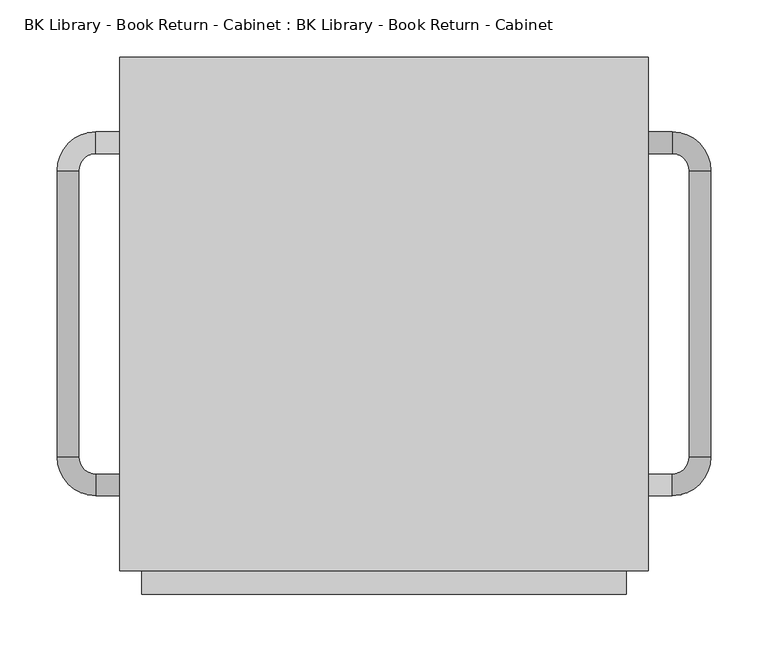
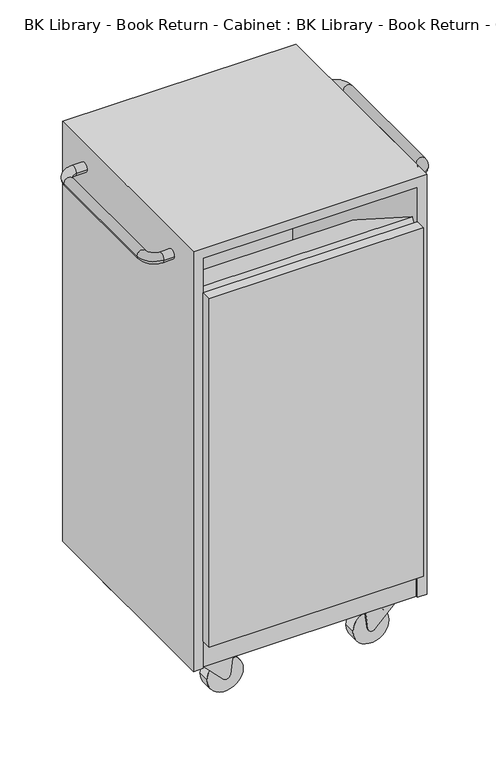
"""IFC4 building model written with IfcOpenShell, lengths in millimetres: furniture geometry, BK Library - Book Return - Cabinet : BK Library - Book Return - Cabinet."""

import ifcopenshell
import ifcopenshell.guid

model = None  # the IFC model being written
_history = None  # IfcOwnerHistory: only IFC2X3 demands one
_inside = {}  # id of a spatial element -> (the spatial element, [elements in it])
_under = {}  # id of a project, library or spatial element -> (it, [spatial elements below it])
_declared = {}  # id of a project -> (the project, [libraries it declares])
_typed = {}  # id of a type object -> (the type object, [elements of that type])
_made_of = {}  # id of a material, layer set ... -> (it, [elements and type objects made of it])


def new_model(schema):
    """Start an empty IFC model of exactly this schema.

    Asked for "IFC4X3", IfcOpenShell would pick the latest addendum, in which some entities
    have other attributes; the version numbers below select the first issue.
    IFC2X3 requires an IfcOwnerHistory on every rooted entity: one is made here for all.
    """
    global model, _history
    if schema == "IFC4X3":
        model = ifcopenshell.file(schema_version=(4, 3, 0, 0))
    else:
        model = ifcopenshell.file(schema=schema)
    _inside.clear()
    _under.clear()
    _declared.clear()
    _typed.clear()
    _made_of.clear()
    _history = None
    if model.schema == "IFC2X3":
        org = make("IfcOrganization", Name="unknown")
        user = make(
            "IfcPersonAndOrganization",
            ThePerson=make("IfcPerson", FamilyName="unknown"),
            TheOrganization=org,
        )
        app = make(
            "IfcApplication",
            ApplicationDeveloper=org,
            Version="unknown",
            ApplicationFullName="unknown",
            ApplicationIdentifier="unknown",
        )
        _history = make(
            "IfcOwnerHistory",
            OwningUser=user,
            OwningApplication=app,
            ChangeAction="ADDED",
            CreationDate=0,
        )
    return model


def make(cls, **values):
    """One entity of the class cls with the attributes given. An attribute that is None is left unset."""
    return model.create_entity(
        cls, **{name: value for name, value in values.items() if value is not None}
    )


def rooted(cls, **values):
    """An entity with a GlobalId (a new one), such as an element, a storey or a relation."""
    return make(cls, GlobalId=ifcopenshell.guid.new(), OwnerHistory=_history, **values)


def si_unit(unit_type, name, prefix=None):
    """IfcSIUnit, for example si_unit("LENGTHUNIT", "METRE", prefix="MILLI")."""
    return make("IfcSIUnit", UnitType=unit_type, Prefix=prefix, Name=name)


def assignment(units):
    """IfcUnitAssignment: the units of a project."""
    return None if units is None else make("IfcUnitAssignment", Units=units)


def point(xyz):
    """IfcCartesianPoint."""
    return None if xyz is None else make("IfcCartesianPoint", Coordinates=xyz)


def direction(xyz):
    """IfcDirection."""
    return None if xyz is None else make("IfcDirection", DirectionRatios=xyz)


def frame(location, z_axis=None, x_axis=None):
    """IfcAxis2Placement3D, a coordinate frame: its origin and axes. An axis left out is left unset."""
    return make(
        "IfcAxis2Placement3D",
        Location=point(location),
        Axis=direction(z_axis),
        RefDirection=direction(x_axis),
    )


def frame_2d(location, x_axis=None):
    """IfcAxis2Placement2D, a coordinate frame in the plane: its origin and x axis."""
    return make(
        "IfcAxis2Placement2D", Location=point(location), RefDirection=direction(x_axis)
    )


def origin():
    """The frame at (0, 0, 0) with its axes left unset."""
    return frame((0.0, 0.0, 0.0))


def place(relative_to, where):
    """IfcLocalPlacement: puts the frame where relative to a parent placement (None: the world)."""
    return make(
        "IfcLocalPlacement", PlacementRelTo=relative_to, RelativePlacement=where
    )


def context(
    kind, dimensions, precision=None, world=None, true_north=None, identifier=None
):
    """IfcGeometricRepresentationContext, for example the 3D "Model" context."""
    return make(
        "IfcGeometricRepresentationContext",
        ContextIdentifier=identifier,
        ContextType=kind,
        CoordinateSpaceDimension=dimensions,
        Precision=precision,
        WorldCoordinateSystem=world,
        TrueNorth=true_north,
    )


def project(units=None, contexts=None):
    """IfcProject with its units and contexts."""
    return rooted(
        "IfcProject",
        Name="project",
        RepresentationContexts=contexts,
        UnitsInContext=assignment(units),
    )


def spatial(cls, under=None, at=None, **own):
    """A site, building, storey or space (cls), placed at a placement, below another one or the project."""
    s = rooted(cls, ObjectPlacement=at, **own)
    if under is not None:
        _under.setdefault(under.id(), (under, []))[1].append(s)
    return s


def polyline(points):
    """IfcPolyline through the points."""
    return make("IfcPolyline", Points=[point(p) for p in points])


def circle_curve(where, radius):
    """IfcCircle in the frame where."""
    return make("IfcCircle", Position=where, Radius=radius)


def ellipse_curve(where, semi_axis1, semi_axis2):
    """IfcEllipse in the frame where."""
    return make(
        "IfcEllipse", Position=where, SemiAxis1=semi_axis1, SemiAxis2=semi_axis2
    )


def trimmed(basis, trim1, trim2, sense, master):
    """IfcTrimmedCurve: the piece of a basis curve between two trims."""
    return make(
        "IfcTrimmedCurve",
        BasisCurve=basis,
        Trim1=trim1,
        Trim2=trim2,
        SenseAgreement=sense,
        MasterRepresentation=master,
    )


def segment(curve, same_sense, transition):
    """IfcCompositeCurveSegment."""
    return make(
        "IfcCompositeCurveSegment",
        Transition=transition,
        SameSense=same_sense,
        ParentCurve=curve,
    )


def composite_curve(segments, self_intersect=None):
    """IfcCompositeCurve: segments joined end to end."""
    return make("IfcCompositeCurve", Segments=segments, SelfIntersect=self_intersect)


def outline(outer, holes=None, kind="AREA"):
    """IfcArbitraryClosedProfileDef: a profile drawn as a closed curve; with holes, ...WithVoids."""
    if holes is None:
        return make("IfcArbitraryClosedProfileDef", ProfileType=kind, OuterCurve=outer)
    return make(
        "IfcArbitraryProfileDefWithVoids",
        ProfileType=kind,
        OuterCurve=outer,
        InnerCurves=holes,
    )


def extrude(swept, where, along, depth):
    """IfcExtrudedAreaSolid: the profile swept, set in the frame where, extruded along a direction by depth."""
    return make(
        "IfcExtrudedAreaSolid",
        SweptArea=swept,
        Position=where,
        ExtrudedDirection=direction(along),
        Depth=depth,
    )


def faces_of(points, faces, orient=None, outer=None):
    """IfcFace entities. A face is a list of loops; a loop is a list of indices into points, from 0.

    orient and outer hold one flag for each loop. By default every Orientation is true, the
    first loop of a face is its IfcFaceOuterBound and the others are IfcFaceBound.
    """
    made = []
    for i, loops in enumerate(faces):
        bounds = []
        for j, loop in enumerate(loops):
            is_outer = j == 0 if outer is None else outer[i][j]
            bounds.append(
                make(
                    "IfcFaceOuterBound" if is_outer else "IfcFaceBound",
                    Bound=make("IfcPolyLoop", Polygon=[points[k] for k in loop]),
                    Orientation=True if orient is None else orient[i][j],
                )
            )
        made.append(make("IfcFace", Bounds=bounds))
    return made


def faceted_brep(points, faces, orient=None, outer=None, voids=None):
    """IfcFacetedBrep: a solid bounded by flat faces; with voids (closed shells), ...WithVoids."""
    shared = [point(p) for p in points]
    hull = make("IfcClosedShell", CfsFaces=faces_of(shared, faces, orient, outer))
    if voids is None:
        return make("IfcFacetedBrep", Outer=hull)
    return make(
        "IfcFacetedBrepWithVoids",
        Outer=hull,
        Voids=[
            make(cls, CfsFaces=faces_of(shared, fs, o, b)) for cls, fs, o, b in voids
        ],
    )


def shape(context_of_items, identifier, shape_type, items):
    """IfcShapeRepresentation: the items that make up one representation, for example the "Body"."""
    return make(
        "IfcShapeRepresentation",
        ContextOfItems=context_of_items,
        RepresentationIdentifier=identifier,
        RepresentationType=shape_type,
        Items=items,
    )


def source(mapping_origin, context_of_items, identifier, shape_type, items):
    """IfcRepresentationMap: a shape defined once, which mapped items show again and again."""
    return make(
        "IfcRepresentationMap",
        MappingOrigin=mapping_origin,
        MappedRepresentation=shape(context_of_items, identifier, shape_type, items),
    )


def transform(
    local_origin,
    x_axis=None,
    y_axis=None,
    z_axis=None,
    scale=None,
    scale2=None,
    scale3=None,
    uniform=True,
):
    """IfcCartesianTransformationOperator3D, or its non-uniform kind. x_axis, y_axis, z_axis: its Axis1, 2, 3."""
    if uniform:
        return make(
            "IfcCartesianTransformationOperator3D",
            Axis1=direction(x_axis),
            Axis2=direction(y_axis),
            LocalOrigin=point(local_origin),
            Scale=scale,
            Axis3=direction(z_axis),
        )
    return make(
        "IfcCartesianTransformationOperator3DnonUniform",
        Axis1=direction(x_axis),
        Axis2=direction(y_axis),
        LocalOrigin=point(local_origin),
        Scale=scale,
        Axis3=direction(z_axis),
        Scale2=scale2,
        Scale3=scale3,
    )


def mapped(mapping_source, mapping_target):
    """IfcMappedItem: shows the shape of a source again, moved by a transform."""
    return make(
        "IfcMappedItem", MappingSource=mapping_source, MappingTarget=mapping_target
    )


def made_of(thing, what):
    """Note that an element or type object is made of a material, layer set ...; save() writes the relation."""
    if what is not None:
        _made_of.setdefault(what.id(), (what, []))[1].append(thing)
    return thing


def element(
    cls,
    number,
    at=None,
    inside=None,
    cuts=None,
    type_object=None,
    material=None,
    context=None,
    identifier="Body",
    shape_type=None,
    held_by="IfcProductDefinitionShape",
    body=None,
    shapes=None,
    **own,
):
    """One element of the class cls, such as IfcWall. Its Tag is "e" and its number.

    at: its placement. inside: the storey or other place that contains it. cuts: it is an
    opening in that element (IfcRelVoidsElement). A single representation is given by context,
    identifier, shape_type and body (its items); several are given by shapes. held_by: the class
    of the entity that holds the representations. save() writes the other relations.
    """
    e = rooted(cls, Tag="e%d" % number, ObjectPlacement=at, **own)
    if body is not None:
        shapes = [shape(context, identifier, shape_type, body)]
    if shapes is not None:
        e.Representation = make(held_by, Representations=shapes)
    if inside is not None:
        _inside.setdefault(inside.id(), (inside, []))[1].append(e)
    if cuts is not None:
        rooted(
            "IfcRelVoidsElement", RelatingBuildingElement=cuts, RelatedOpeningElement=e
        )
    if type_object is not None:
        _typed.setdefault(type_object.id(), (type_object, []))[1].append(e)
    return made_of(e, material)


def aggregate(whole, parts):
    """IfcRelAggregates: a whole, such as a stair, and the parts it consists of."""
    return rooted("IfcRelAggregates", RelatingObject=whole, RelatedObjects=parts)


def save(model, path):
    """Write the relations noted so far, then the file.

    IfcRelAggregates (storeys below a building ...), IfcRelContainedInSpatialStructure (elements
    in a storey), IfcRelDefinesByType, IfcRelAssociatesMaterial and IfcRelDeclares: one each for
    every whole, place, type object, material and project.
    """
    for whole, parts in _under.values():
        aggregate(whole, parts)
    for where, things in _inside.values():
        rooted(
            "IfcRelContainedInSpatialStructure",
            RelatedElements=things,
            RelatingStructure=where,
        )
    for kind, things in _typed.values():
        rooted("IfcRelDefinesByType", RelatedObjects=things, RelatingType=kind)
    for what, things in _made_of.values():
        rooted("IfcRelAssociatesMaterial", RelatedObjects=things, RelatingMaterial=what)
    for by, libraries in _declared.values():
        rooted("IfcRelDeclares", RelatingContext=by, RelatedDefinitions=libraries)
    model.write(path)


def plane_surface(at):
    """IfcPlane: the flat surface through the origin of the frame at, square to its z axis."""
    return make("IfcPlane", Position=at)


def cylinder_surface(at, radius):
    """IfcCylindricalSurface: all points at the distance radius from the z axis of the frame at."""
    return make("IfcCylindricalSurface", Position=at, Radius=radius)


def revolved_surface(curve, axis_point, axis_direction):
    """IfcSurfaceOfRevolution: the curve turned about the line through axis_point along axis_direction."""
    return make(
        "IfcSurfaceOfRevolution",
        SweptCurve=make("IfcArbitraryOpenProfileDef", ProfileType="CURVE", Curve=curve),
        AxisPosition=make("IfcAxis1Placement", Location=point(axis_point), Axis=direction(axis_direction)),
    )


def advanced_brep(points, edges, surfaces, faces):
    """IfcAdvancedBrep: a solid bounded by faces that lie on surfaces and meet in shared edges.

    An edge is (start, end): straight between two places in points (the first is 0);
    or (start, end, curve); or (start, end, curve, False) where it runs against its curve.
    A face is (place in surfaces, loops), or (place, loops, False) where it looks against
    its surface's normal. A loop lists edges by number (the first is 1), with a minus sign
    where the edge is run from its end to its start. The first loop is the outer one.
    """
    corners = [point(p) for p in points]
    vertices = [make("IfcVertexPoint", VertexGeometry=c) for c in corners]
    made = []
    for start, end, *more in edges:
        made.append(
            make(
                "IfcEdgeCurve",
                EdgeStart=vertices[start],
                EdgeEnd=vertices[end],
                EdgeGeometry=more[0] if more else make("IfcPolyline", Points=[corners[start], corners[end]]),
                SameSense=more[1] if len(more) > 1 else True,
            )
        )
    hull = []
    for where, loops, *sense in faces:
        bounds = []
        for j, loop in enumerate(loops):
            ring = [make("IfcOrientedEdge", EdgeElement=made[abs(k) - 1], Orientation=k > 0) for k in loop]
            bounds.append(
                make(
                    "IfcFaceOuterBound" if j == 0 else "IfcFaceBound",
                    Bound=make("IfcEdgeLoop", EdgeList=ring),
                    Orientation=True,
                )
            )
        hull.append(make("IfcAdvancedFace", Bounds=bounds, FaceSurface=surfaces[where], SameSense=sense[0] if sense else True))
    return make("IfcAdvancedBrep", Outer=make("IfcClosedShell", CfsFaces=hull))


def bk_library_book_return_cabinet_bk_library_book_return_a110d377(model_context):
    return source(origin(), model_context, "Body", "SolidModel", [
        advanced_brep(
        [(231.5, 140.4384335, 927.0008812), (231.5, 159.4384335, 927.0008812), (252.5383998, 159.4384335, 927.0008812), (252.5383998, 140.4384335, 927.0008812), (267.5383998, 125.4384335, 927.0008812), (286.5383998, 125.4384335, 927.0008812), (286.5383998, -125.4384335, 927.0008812), (267.5383998, -125.4384335, 927.0008812), (252.5383998, -140.4384335, 927.0008812), (252.5383998, -159.4384335, 927.0008812), (231.5, -140.4384335, 927.0008812), (231.5, -159.4384335, 927.0008812)],
        [
            (0, 1, circle_curve(frame((231.5, 149.9384335, 927.0008812), z_axis=(-1.0, 0.0, 0.0), x_axis=(0.0, 1.0, 0.0)), 9.5)),
            (1, 0, circle_curve(frame((231.5, 149.9384335, 927.0008812), z_axis=(-1.0, 0.0, 0.0), x_axis=(0.0, 1.0, 0.0)), 9.5)),
            (1, 2),
            (2, 3, circle_curve(frame((252.5383998, 149.9384335, 927.0008812), z_axis=(-1.0, 0.0, 0.0), x_axis=(0.0, 1.0, 0.0)), 9.5)),
            (3, 0),
            (3, 2, circle_curve(frame((252.5383998, 149.9384335, 927.0008812), z_axis=(-1.0, 0.0, 0.0), x_axis=(0.0, 1.0, 0.0)), 9.5)),
            (4, 3, circle_curve(frame((252.5383998, 125.4384335, 927.0008812), z_axis=(0.0, 0.0, 1.0), x_axis=(0.0, 1.0, 0.0)), 15.0)),
            (2, 5, circle_curve(frame((252.5383998, 125.4384335, 927.0008812), z_axis=(0.0, 0.0, -1.0), x_axis=(0.0, 1.0, 0.0)), 34.0)),
            (5, 4, circle_curve(frame((277.0383998, 125.4384335, 927.0008812), z_axis=(0.0, 1.0, 0.0), x_axis=(1.0, 0.0, 0.0)), 9.5)),
            (4, 5, circle_curve(frame((277.0383998, 125.4384335, 927.0008812), z_axis=(0.0, 1.0, 0.0), x_axis=(1.0, 0.0, 0.0)), 9.5)),
            (5, 6),
            (6, 7, circle_curve(frame((277.0383998, -125.4384335, 927.0008812), z_axis=(0.0, 1.0, 0.0), x_axis=(1.0, 0.0, 0.0)), 9.5)),
            (7, 4),
            (7, 6, circle_curve(frame((277.0383998, -125.4384335, 927.0008812), z_axis=(0.0, 1.0, 0.0), x_axis=(1.0, 0.0, 0.0)), 9.5)),
            (8, 7, circle_curve(frame((252.5383998, -125.4384335, 927.0008812), z_axis=(0.0, 0.0, 1.0), x_axis=(1.0, 0.0, 0.0)), 15.0)),
            (6, 9, circle_curve(frame((252.5383998, -125.4384335, 927.0008812), z_axis=(0.0, 0.0, -1.0), x_axis=(1.0, 0.0, 0.0)), 34.0)),
            (9, 8, circle_curve(frame((252.5383998, -149.9384335, 927.0008812), z_axis=(1.0, 0.0, 0.0), x_axis=(0.0, -1.0, 0.0)), 9.5)),
            (8, 9, circle_curve(frame((252.5383998, -149.9384335, 927.0008812), z_axis=(1.0, 0.0, 0.0), x_axis=(0.0, -1.0, 0.0)), 9.5)),
            (10, 11, circle_curve(frame((231.5, -149.9384335, 927.0008812), z_axis=(-1.0, 0.0, 0.0), x_axis=(0.0, -1.0, 0.0)), 9.5)),
            (11, 10, circle_curve(frame((231.5, -149.9384335, 927.0008812), z_axis=(-1.0, 0.0, 0.0), x_axis=(0.0, -1.0, 0.0)), 9.5)),
            (9, 11),
            (10, 8),
        ],
        [
            plane_surface(frame((231.5, 140.4384335, 0.0), z_axis=(-1.0, 0.0, 0.0), x_axis=(0.0, 0.0, 1.0))),
            cylinder_surface(frame((231.5, 149.9384335, 927.0008812), z_axis=(-1.0, 0.0, 0.0), x_axis=(0.0, 1.0, 0.0)), 9.5),
            revolved_surface(trimmed(ellipse_curve(frame((252.5383998, 149.9384335, 927.0008812), z_axis=(-1.0, 0.0, 0.0), x_axis=(0.0, 1.0, 0.0)), 9.5, 9.5), [point((252.5383998, 159.4384335, 927.0008812))], [point((252.5383998, 140.4384335, 927.0008812))], True, "CARTESIAN"), (252.5383998, 125.4384335, 0.0), (0.0, 0.0, -1.0)),
            revolved_surface(trimmed(ellipse_curve(frame((252.5383998, 149.9384335, 927.0008812), z_axis=(-1.0, 0.0, 0.0), x_axis=(0.0, 1.0, 0.0)), 9.5, 9.5), [point((252.5383998, 140.4384335, 927.0008812))], [point((252.5383998, 159.4384335, 927.0008812))], True, "CARTESIAN"), (252.5383998, 125.4384335, 0.0), (0.0, 0.0, -1.0)),
            cylinder_surface(frame((277.0383998, 125.4384335, 927.0008812), z_axis=(0.0, 1.0, 0.0), x_axis=(1.0, 0.0, 0.0)), 9.5),
            revolved_surface(trimmed(ellipse_curve(frame((277.0383998, -125.4384335, 927.0008812), z_axis=(0.0, 1.0, 0.0), x_axis=(1.0, 0.0, 0.0)), 9.5, 9.5), [point((286.5383998, -125.4384335, 927.0008812))], [point((267.5383998, -125.4384335, 927.0008812))], True, "CARTESIAN"), (252.5383998, -125.4384335, 0.0), (0.0, 0.0, -1.0)),
            revolved_surface(trimmed(ellipse_curve(frame((277.0383998, -125.4384335, 927.0008812), z_axis=(0.0, 1.0, 0.0), x_axis=(1.0, 0.0, 0.0)), 9.5, 9.5), [point((267.5383998, -125.4384335, 927.0008812))], [point((286.5383998, -125.4384335, 927.0008812))], True, "CARTESIAN"), (252.5383998, -125.4384335, 0.0), (0.0, 0.0, -1.0)),
            plane_surface(frame((231.5, -140.4384335, 0.0), z_axis=(-1.0, 0.0, 0.0), x_axis=(0.0, 0.0, 1.0))),
            cylinder_surface(frame((252.5383998, -149.9384335, 927.0008812), z_axis=(1.0, 0.0, 0.0), x_axis=(0.0, -1.0, 0.0)), 9.5),
        ],
        [
            (0, [[1, 2]]),
            (1, [[-2, 3, 4, 5]]),
            (1, [[-1, -5, 6, -3]]),
            (2, [[7, -4, 8, 9]]),
            (3, [[-8, -6, -7, 10]]),
            (4, [[-9, 11, 12, 13]]),
            (4, [[-10, -13, 14, -11]]),
            (5, [[15, -12, 16, 17]]),
            (6, [[-16, -14, -15, 18]]),
            (7, [[19, 20]]),
            (8, [[-17, 21, -19, 22]]),
            (8, [[-18, -22, -20, -21]]),
        ],
    ),
        advanced_brep(
        [(-231.5, 159.4384335, 927.0008812), (-231.5, 140.4384335, 927.0008812), (-252.5383998, 159.4384335, 927.0008812), (-252.5383998, 140.4384335, 927.0008812), (-267.5383998, 125.4384335, 927.0008812), (-286.5383998, 125.4384335, 927.0008812), (-286.5383998, -125.4384335, 927.0008812), (-267.5383998, -125.4384335, 927.0008812), (-252.5383998, -140.4384335, 927.0008812), (-252.5383998, -159.4384335, 927.0008812), (-231.5, -159.4384335, 927.0008812), (-231.5, -140.4384335, 927.0008812)],
        [
            (0, 1, circle_curve(frame((-231.5, 149.9384335, 927.0008812), z_axis=(1.0, 0.0, 0.0), x_axis=(0.0, -1.0, 0.0)), 9.5)),
            (1, 0, circle_curve(frame((-231.5, 149.9384335, 927.0008812), z_axis=(1.0, 0.0, 0.0), x_axis=(0.0, -1.0, 0.0)), 9.5)),
            (0, 2),
            (2, 3, circle_curve(frame((-252.5383998, 149.9384335, 927.0008812), z_axis=(1.0, 0.0, 0.0), x_axis=(0.0, -1.0, 0.0)), 9.5)),
            (3, 1),
            (3, 2, circle_curve(frame((-252.5383998, 149.9384335, 927.0008812), z_axis=(1.0, 0.0, 0.0), x_axis=(0.0, -1.0, 0.0)), 9.5)),
            (4, 3, circle_curve(frame((-252.5383998, 125.4384335, 927.0008812), z_axis=(0.0, 0.0, -1.0), x_axis=(0.0, 1.0, 0.0)), 15.0)),
            (2, 5, circle_curve(frame((-252.5383998, 125.4384335, 927.0008812), z_axis=(0.0, 0.0, 1.0), x_axis=(0.0, 1.0, 0.0)), 34.0)),
            (5, 4, circle_curve(frame((-277.0383998, 125.4384335, 927.0008812), z_axis=(0.0, 1.0, 0.0), x_axis=(1.0, 0.0, 0.0)), 9.5)),
            (4, 5, circle_curve(frame((-277.0383998, 125.4384335, 927.0008812), z_axis=(0.0, 1.0, 0.0), x_axis=(1.0, 0.0, 0.0)), 9.5)),
            (5, 6),
            (6, 7, circle_curve(frame((-277.0383998, -125.4384335, 927.0008812), z_axis=(0.0, 1.0, 0.0), x_axis=(1.0, 0.0, 0.0)), 9.5)),
            (7, 4),
            (7, 6, circle_curve(frame((-277.0383998, -125.4384335, 927.0008812), z_axis=(0.0, 1.0, 0.0), x_axis=(1.0, 0.0, 0.0)), 9.5)),
            (8, 7, circle_curve(frame((-252.5383998, -125.4384335, 927.0008812), z_axis=(0.0, 0.0, -1.0), x_axis=(-1.0, 0.0, 0.0)), 15.0)),
            (6, 9, circle_curve(frame((-252.5383998, -125.4384335, 927.0008812), z_axis=(0.0, 0.0, 1.0), x_axis=(-1.0, 0.0, 0.0)), 34.0)),
            (9, 8, circle_curve(frame((-252.5383998, -149.9384335, 927.0008812), z_axis=(-1.0, 0.0, 0.0), x_axis=(0.0, 1.0, 0.0)), 9.5)),
            (8, 9, circle_curve(frame((-252.5383998, -149.9384335, 927.0008812), z_axis=(-1.0, 0.0, 0.0), x_axis=(0.0, 1.0, 0.0)), 9.5)),
            (10, 11, circle_curve(frame((-231.5, -149.9384335, 927.0008812), z_axis=(1.0, 0.0, 0.0), x_axis=(0.0, 1.0, 0.0)), 9.5)),
            (11, 10, circle_curve(frame((-231.5, -149.9384335, 927.0008812), z_axis=(1.0, 0.0, 0.0), x_axis=(0.0, 1.0, 0.0)), 9.5)),
            (9, 10),
            (11, 8),
        ],
        [
            plane_surface(frame((-231.5, 140.4384335, 0.0), z_axis=(1.0, 0.0, 0.0), x_axis=(0.0, 0.0, 1.0))),
            cylinder_surface(frame((-231.5, 149.9384335, 927.0008812), z_axis=(1.0, 0.0, 0.0), x_axis=(0.0, -1.0, 0.0)), 9.5),
            revolved_surface(trimmed(ellipse_curve(frame((-252.5383998, 149.9384335, 927.0008812), z_axis=(1.0, 0.0, 0.0), x_axis=(0.0, -1.0, 0.0)), 9.5, 9.5), [point((-252.5383998, 159.4384335, 927.0008812))], [point((-252.5383998, 140.4384335, 927.0008812))], True, "CARTESIAN"), (-252.5383998, 125.4384335, 0.0), (0.0, 0.0, 1.0)),
            revolved_surface(trimmed(ellipse_curve(frame((-252.5383998, 149.9384335, 927.0008812), z_axis=(1.0, 0.0, 0.0), x_axis=(0.0, -1.0, 0.0)), 9.5, 9.5), [point((-252.5383998, 140.4384335, 927.0008812))], [point((-252.5383998, 159.4384335, 927.0008812))], True, "CARTESIAN"), (-252.5383998, 125.4384335, 0.0), (0.0, 0.0, 1.0)),
            cylinder_surface(frame((-277.0383998, 125.4384335, 927.0008812), z_axis=(0.0, 1.0, 0.0), x_axis=(1.0, 0.0, 0.0)), 9.5),
            revolved_surface(trimmed(ellipse_curve(frame((-277.0383998, -125.4384335, 927.0008812), z_axis=(0.0, 1.0, 0.0), x_axis=(1.0, 0.0, 0.0)), 9.5, 9.5), [point((-286.5383998, -125.4384335, 927.0008812))], [point((-267.5383998, -125.4384335, 927.0008812))], True, "CARTESIAN"), (-252.5383998, -125.4384335, 0.0), (0.0, 0.0, 1.0)),
            revolved_surface(trimmed(ellipse_curve(frame((-277.0383998, -125.4384335, 927.0008812), z_axis=(0.0, 1.0, 0.0), x_axis=(1.0, 0.0, 0.0)), 9.5, 9.5), [point((-267.5383998, -125.4384335, 927.0008812))], [point((-286.5383998, -125.4384335, 927.0008812))], True, "CARTESIAN"), (-252.5383998, -125.4384335, 0.0), (0.0, 0.0, 1.0)),
            plane_surface(frame((-231.5, -140.4384335, 0.0), z_axis=(1.0, 0.0, 0.0), x_axis=(0.0, 0.0, 1.0))),
            cylinder_surface(frame((-252.5383998, -149.9384335, 927.0008812), z_axis=(-1.0, 0.0, 0.0), x_axis=(0.0, 1.0, 0.0)), 9.5),
        ],
        [
            (0, [[1, 2]]),
            (1, [[-1, 3, 4, 5]]),
            (1, [[-2, -5, 6, -3]]),
            (2, [[7, -4, 8, 9]]),
            (3, [[-8, -6, -7, 10]]),
            (4, [[-9, 11, 12, 13]]),
            (4, [[-10, -13, 14, -11]]),
            (5, [[15, -12, 16, 17]]),
            (6, [[-16, -14, -15, 18]]),
            (7, [[19, 20]]),
            (8, [[-17, 21, -20, 22]]),
            (8, [[-18, -22, -19, -21]]),
        ],
    ),
        extrude(outline(composite_curve([segment(trimmed(circle_curve(frame_2d((179.5292285, 171.1569734)), 12.5248147), [point((192.0540432, 171.1569734))], [point((167.0044137, 171.1569734))], False, "CARTESIAN"), True, "CONTINUOUS"), segment(trimmed(circle_curve(frame_2d((179.5292285, 171.1569734)), 12.5248147), [point((167.0044137, 171.1569734))], [point((192.0540432, 171.1569734))], False, "CARTESIAN"), True, "CONTINUOUS")], self_intersect=False)), frame((0.0, 0.0, 87.7), z_axis=(0.0, 0.0, 1.0), x_axis=(1.0, 0.0, 0.0)), (0.0, 0.0, 1.0), 9.3),
        extrude(outline(composite_curve([segment(trimmed(circle_curve(frame_2d((72.665374, 116.6185255)), 2.0), [point((72.665374, 114.6185255))], [point((70.6957585, 116.2712291))], False, "CARTESIAN"), True, "CONTINUOUS"), segment(polyline([(70.6957585, 116.2712291), (68.1469989, 130.7259632)]), True, "CONTINUOUS"), segment(trimmed(circle_curve(frame_2d((66.1773834, 130.3786669)), 2.0), [point((68.1469989, 130.7259632))], [point((66.4454242, 132.360624))], True, "CARTESIAN"), True, "CONTINUOUS"), segment(polyline([(66.4454242, 132.360624), (34.4278369, 136.6906969)]), True, "CONTINUOUS"), segment(trimmed(circle_curve(frame_2d((35.5, 144.6185255)), 8.0), [point((34.4278369, 136.6906969))], [point((29.8327739, 150.2649888))], False, "CARTESIAN"), True, "CONTINUOUS"), segment(polyline([(29.8327739, 150.2649888), (80.4985188, 201.1170388), (88.2, 201.1170388), (88.2, 114.6185255), (72.665374, 114.6185255)]), True, "CONTINUOUS")], self_intersect=False)), frame((0.0, 155.1101244, 0.0), z_axis=(0.0, 1.0, 0.0), x_axis=(0.0, 0.0, 1.0)), (0.0, 0.0, 1.0), 32.0),
        extrude(outline(composite_curve([segment(trimmed(circle_curve(frame_2d((35.6872146, 144.5149539)), 35.6947525), [point((35.6872146, 108.8202015))], [point((35.6872146, 180.2097064))], False, "CARTESIAN"), True, "CONTINUOUS"), segment(trimmed(circle_curve(frame_2d((35.6872146, 144.5149539)), 35.6947525), [point((35.6872146, 180.2097064))], [point((35.6872146, 108.8202015))], False, "CARTESIAN"), True, "CONTINUOUS")], self_intersect=False)), frame((0.0, 159.1101244, 0.0), z_axis=(0.0, 1.0, 0.0), x_axis=(0.0, 0.0, 1.0)), (0.0, 0.0, 1.0), 24.0),
        extrude(outline(composite_curve([segment(trimmed(circle_curve(frame_2d((179.5292285, -171.1569734)), 12.5248147), [point((192.0540432, -171.1569734))], [point((167.0044137, -171.1569734))], False, "CARTESIAN"), True, "CONTINUOUS"), segment(trimmed(circle_curve(frame_2d((179.5292285, -171.1569734)), 12.5248147), [point((167.0044137, -171.1569734))], [point((192.0540432, -171.1569734))], False, "CARTESIAN"), True, "CONTINUOUS")], self_intersect=False)), frame((0.0, 0.0, 87.7), z_axis=(0.0, 0.0, 1.0), x_axis=(1.0, 0.0, 0.0)), (0.0, 0.0, 1.0), 9.3),
        extrude(outline(composite_curve([segment(trimmed(circle_curve(frame_2d((72.665374, 116.6185255)), 2.0), [point((72.665374, 114.6185255))], [point((70.6957585, 116.2712291))], False, "CARTESIAN"), True, "CONTINUOUS"), segment(polyline([(70.6957585, 116.2712291), (68.1469989, 130.7259632)]), True, "CONTINUOUS"), segment(trimmed(circle_curve(frame_2d((66.1773834, 130.3786669)), 2.0), [point((68.1469989, 130.7259632))], [point((66.4454242, 132.360624))], True, "CARTESIAN"), True, "CONTINUOUS"), segment(polyline([(66.4454242, 132.360624), (34.4278369, 136.6906969)]), True, "CONTINUOUS"), segment(trimmed(circle_curve(frame_2d((35.5, 144.6185255)), 8.0), [point((34.4278369, 136.6906969))], [point((29.8327739, 150.2649888))], False, "CARTESIAN"), True, "CONTINUOUS"), segment(polyline([(29.8327739, 150.2649888), (80.4985188, 201.1170388), (88.2, 201.1170388), (88.2, 114.6185255), (72.665374, 114.6185255)]), True, "CONTINUOUS")], self_intersect=False)), frame((0.0, -187.1101244, 0.0), z_axis=(0.0, 1.0, 0.0), x_axis=(0.0, 0.0, 1.0)), (0.0, 0.0, 1.0), 32.0),
        extrude(outline(composite_curve([segment(trimmed(circle_curve(frame_2d((35.6872146, 144.5149539)), 35.6947525), [point((35.6872146, 108.8202015))], [point((35.6872146, 180.2097064))], False, "CARTESIAN"), True, "CONTINUOUS"), segment(trimmed(circle_curve(frame_2d((35.6872146, 144.5149539)), 35.6947525), [point((35.6872146, 180.2097064))], [point((35.6872146, 108.8202015))], False, "CARTESIAN"), True, "CONTINUOUS")], self_intersect=False)), frame((0.0, -183.1101244, 0.0), z_axis=(0.0, 1.0, 0.0), x_axis=(0.0, 0.0, 1.0)), (0.0, 0.0, 1.0), 24.0),
        extrude(outline(composite_curve([segment(trimmed(circle_curve(frame_2d((-179.5292285, -171.1569734)), 12.5248147), [point((-192.0540432, -171.1569734))], [point((-167.0044137, -171.1569734))], False, "CARTESIAN"), True, "CONTINUOUS"), segment(trimmed(circle_curve(frame_2d((-179.5292285, -171.1569734)), 12.5248147), [point((-167.0044137, -171.1569734))], [point((-192.0540432, -171.1569734))], False, "CARTESIAN"), True, "CONTINUOUS")], self_intersect=False)), frame((0.0, 0.0, 87.7), z_axis=(0.0, 0.0, 1.0), x_axis=(1.0, 0.0, 0.0)), (0.0, 0.0, 1.0), 9.3),
        extrude(outline(composite_curve([segment(polyline([(72.665374, -114.6185255), (88.2, -114.6185255), (88.2, -201.1170388), (80.4985188, -201.1170388), (29.8327739, -150.2649888)]), True, "CONTINUOUS"), segment(trimmed(circle_curve(frame_2d((35.5, -144.6185255)), 8.0), [point((29.8327739, -150.2649888))], [point((34.4278369, -136.6906969))], False, "CARTESIAN"), True, "CONTINUOUS"), segment(polyline([(34.4278369, -136.6906969), (66.4454242, -132.360624)]), True, "CONTINUOUS"), segment(trimmed(circle_curve(frame_2d((66.1773834, -130.3786669)), 2.0), [point((66.4454242, -132.360624))], [point((68.1469989, -130.7259632))], True, "CARTESIAN"), True, "CONTINUOUS"), segment(polyline([(68.1469989, -130.7259632), (70.6957585, -116.2712291)]), True, "CONTINUOUS"), segment(trimmed(circle_curve(frame_2d((72.665374, -116.6185255)), 2.0), [point((70.6957585, -116.2712291))], [point((72.665374, -114.6185255))], False, "CARTESIAN"), True, "CONTINUOUS")], self_intersect=False)), frame((0.0, -187.1101244, 0.0), z_axis=(0.0, 1.0, 0.0), x_axis=(0.0, 0.0, 1.0)), (0.0, 0.0, 1.0), 32.0),
        extrude(outline(composite_curve([segment(trimmed(circle_curve(frame_2d((35.6872146, -144.5149539)), 35.6947525), [point((35.6872146, -108.8202015))], [point((35.6872146, -180.2097064))], False, "CARTESIAN"), True, "CONTINUOUS"), segment(trimmed(circle_curve(frame_2d((35.6872146, -144.5149539)), 35.6947525), [point((35.6872146, -180.2097064))], [point((35.6872146, -108.8202015))], False, "CARTESIAN"), True, "CONTINUOUS")], self_intersect=False)), frame((0.0, -183.1101244, 0.0), z_axis=(0.0, 1.0, 0.0), x_axis=(0.0, 0.0, 1.0)), (0.0, 0.0, 1.0), 24.0),
        extrude(outline(polyline([(212.5, -225.0), (212.5, -246.0), (-212.5, -246.0), (-212.5, -225.0), (212.5, -225.0)])), frame((0.0, 0.0, 154.0075684), z_axis=(0.0, 0.0, 1.0), x_axis=(1.0, 0.0, 0.0)), (0.0, 0.0, 1.0), 730.0),
        extrude(outline(polyline([(0.0, -238.0), (0.0, 0.0), (425.0, 0.0), (425.0, -238.0), (0.0, -238.0)])), frame((212.5, -217.8513068, 868.1533799), z_axis=(0.0, 0.5390536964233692, 0.8422714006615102), x_axis=(-1.0, 0.0, 0.0)), (0.0, 0.0, 1.0), 19.0),
        extrude(outline(polyline([(-202.0, 179.5075684), (204.0, 179.5075684), (204.0, 160.5075684), (-202.0, 160.5075684), (-202.0, 97.0), (-221.0, 97.0), (-221.0, 337.0075684), (-202.0, 337.0075684), (-202.0, 179.5075684)])), frame((-212.5, 0.0, 0.0), z_axis=(1.0, 0.0, 0.0), x_axis=(0.0, 1.0, 0.0)), (0.0, 0.0, 1.0), 425.0),
        extrude(outline(composite_curve([segment(trimmed(circle_curve(frame_2d((-179.5292285, 171.1569734)), 12.5248147), [point((-192.0540432, 171.1569734))], [point((-167.0044137, 171.1569734))], False, "CARTESIAN"), True, "CONTINUOUS"), segment(trimmed(circle_curve(frame_2d((-179.5292285, 171.1569734)), 12.5248147), [point((-167.0044137, 171.1569734))], [point((-192.0540432, 171.1569734))], False, "CARTESIAN"), True, "CONTINUOUS")], self_intersect=False)), frame((0.0, 0.0, 87.7), z_axis=(0.0, 0.0, 1.0), x_axis=(1.0, 0.0, 0.0)), (0.0, 0.0, 1.0), 9.3),
        extrude(outline(composite_curve([segment(polyline([(72.665374, -114.6185255), (88.2, -114.6185255), (88.2, -201.1170388), (80.4985188, -201.1170388), (29.8327739, -150.2649888)]), True, "CONTINUOUS"), segment(trimmed(circle_curve(frame_2d((35.5, -144.6185255)), 8.0), [point((29.8327739, -150.2649888))], [point((34.4278369, -136.6906969))], False, "CARTESIAN"), True, "CONTINUOUS"), segment(polyline([(34.4278369, -136.6906969), (66.4454242, -132.360624)]), True, "CONTINUOUS"), segment(trimmed(circle_curve(frame_2d((66.1773834, -130.3786669)), 2.0), [point((66.4454242, -132.360624))], [point((68.1469989, -130.7259632))], True, "CARTESIAN"), True, "CONTINUOUS"), segment(polyline([(68.1469989, -130.7259632), (70.6957585, -116.2712291)]), True, "CONTINUOUS"), segment(trimmed(circle_curve(frame_2d((72.665374, -116.6185255)), 2.0), [point((70.6957585, -116.2712291))], [point((72.665374, -114.6185255))], False, "CARTESIAN"), True, "CONTINUOUS")], self_intersect=False)), frame((0.0, 155.1101244, 0.0), z_axis=(0.0, 1.0, 0.0), x_axis=(0.0, 0.0, 1.0)), (0.0, 0.0, 1.0), 32.0),
        extrude(outline(composite_curve([segment(trimmed(circle_curve(frame_2d((35.6872146, -144.5149539)), 35.6947525), [point((35.6872146, -108.8202015))], [point((35.6872146, -180.2097064))], False, "CARTESIAN"), True, "CONTINUOUS"), segment(trimmed(circle_curve(frame_2d((35.6872146, -144.5149539)), 35.6947525), [point((35.6872146, -180.2097064))], [point((35.6872146, -108.8202015))], False, "CARTESIAN"), True, "CONTINUOUS")], self_intersect=False)), frame((0.0, 159.1101244, 0.0), z_axis=(0.0, 1.0, 0.0), x_axis=(0.0, 0.0, 1.0)), (0.0, 0.0, 1.0), 24.0),
        faceted_brep([(-212.5, -225.0, 97.0), (-212.5, -202.0, 97.0), (-212.5, -202.0, 117.9690471), (-212.5, 204.0, 117.9690471), (-212.5, 204.0, 956.0075684), (-212.5, -225.0, 956.0075684), (-231.5, -225.0, 97.0), (-231.5, -225.0, 977.0075684), (-231.5, 225.0, 977.0075684), (-231.5, 225.0, 97.0), (231.5, 225.0, 97.0), (231.5, -225.0, 97.0), (212.5, -225.0, 97.0), (212.5, -202.0, 97.0), (231.5, 225.0, 977.0075684), (231.5, -225.0, 977.0075684), (212.5, -225.0, 956.0075684), (212.5, 204.0, 117.9690471), (212.5, -202.0, 117.9690471), (212.5, 204.0, 956.0075684)], [[[0, 1, 2, 3, 4, 5]], [[6, 7, 8, 9]], [[6, 9, 10, 11, 12, 13, 1, 0]], [[10, 9, 8, 14]], [[14, 8, 7, 15]], [[15, 7, 6, 0, 5, 16, 12, 11]], [[17, 3, 2, 18]], [[18, 2, 1, 13]], [[16, 5, 4, 19]], [[3, 17, 19, 4]], [[13, 12, 16, 19, 17, 18]], [[11, 10, 14, 15]]]),
    ])


if __name__ == "__main__":
    model = new_model("IFC4")
    model_context = context("Model", 3, world=origin())
    ifc_project = project(units=[si_unit("LENGTHUNIT", "METRE", prefix="MILLI")], contexts=[model_context])
    site = spatial("IfcSite", under=ifc_project)
    building = spatial("IfcBuilding", under=site)
    placement = place(None, origin())
    bk_library_book_return_cabinet_bk_library_book_return_shape = bk_library_book_return_cabinet_bk_library_book_return_a110d377(model_context)
    element("IfcFurniture", 1, ObjectType="BK Library - Book Return - Cabinet : BK Library - Book Return - Cabinet", at=placement, inside=building, context=model_context, shape_type="MappedRepresentation", body=[
        mapped(bk_library_book_return_cabinet_bk_library_book_return_shape, transform((0.0, 0.0, 0.0), x_axis=(1.0, 0.0, 0.0), y_axis=(0.0, 1.0, 0.0), z_axis=(0.0, 0.0, 1.0))),
    ])
    save(model, "model.ifc")
